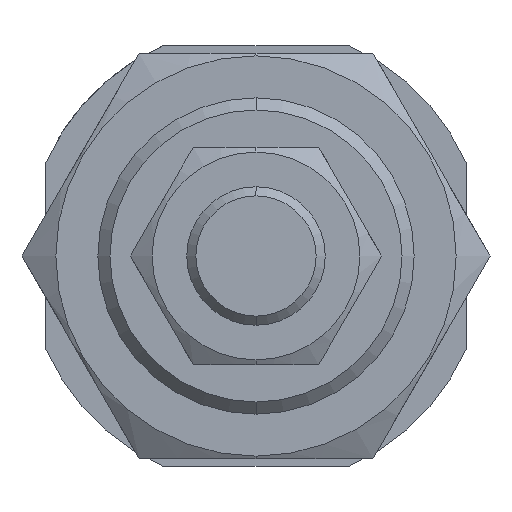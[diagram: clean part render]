
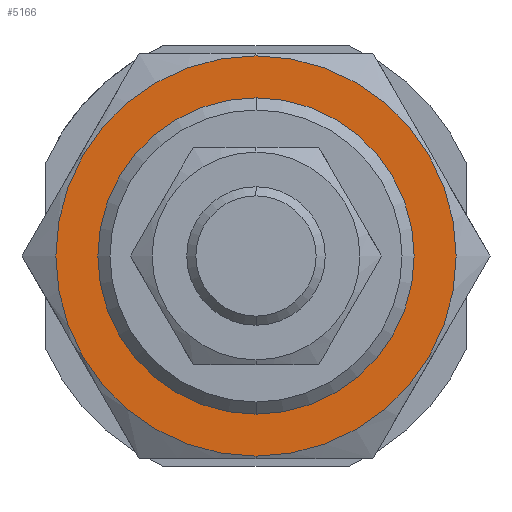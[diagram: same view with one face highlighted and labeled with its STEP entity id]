
A CAD part, left-side view. The second image highlights one B-rep face of the part: STEP entity #5166.
In plain terms, the highlighted planar face has unit normal (-1, 0, 0).
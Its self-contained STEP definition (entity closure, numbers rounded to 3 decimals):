
#26 = CARTESIAN_POINT ( 'NONE',  ( -13., 0., 20.25 ) ) ;
#105 = CARTESIAN_POINT ( 'NONE',  ( -13., 0., 0. ) ) ;
#205 = ORIENTED_EDGE ( 'NONE', *, *, #1601, .F. ) ;
#451 = DIRECTION ( 'NONE',  ( 1., 0., 0. ) ) ;
#577 = DIRECTION ( 'NONE',  ( 1., 0., 0. ) ) ;
#635 = ORIENTED_EDGE ( 'NONE', *, *, #3883, .T. ) ;
#714 = VERTEX_POINT ( 'NONE', #2611 ) ;
#980 = DIRECTION ( 'NONE',  ( 1., 0., 0. ) ) ;
#1089 = DIRECTION ( 'NONE',  ( 0., 0., -1. ) ) ;
#1408 = PLANE ( 'NONE',  #2892 ) ;
#1516 = CIRCLE ( 'NONE', #4576, 16. ) ;
#1549 = DIRECTION ( 'NONE',  ( 0., 0., -1. ) ) ;
#1601 = EDGE_CURVE ( 'NONE', #714, #5371, #4857, .T. ) ;
#1634 = AXIS2_PLACEMENT_3D ( 'NONE', #2127, #2572, #2977 ) ;
#1981 = FACE_BOUND ( 'NONE', #3198, .T. ) ;
#2028 = EDGE_CURVE ( 'NONE', #4575, #4931, #4028, .T. ) ;
#2088 = AXIS2_PLACEMENT_3D ( 'NONE', #105, #3741, #1549 ) ;
#2127 = CARTESIAN_POINT ( 'NONE',  ( -13., 0., 0. ) ) ;
#2247 = CARTESIAN_POINT ( 'NONE',  ( -13., 0., -16. ) ) ;
#2275 = CARTESIAN_POINT ( 'NONE',  ( -13., 0., 16. ) ) ;
#2484 = EDGE_CURVE ( 'NONE', #5371, #714, #3852, .T. ) ;
#2572 = DIRECTION ( 'NONE',  ( 1., 0., 0. ) ) ;
#2611 = CARTESIAN_POINT ( 'NONE',  ( -13., 0., -20.25 ) ) ;
#2735 = DIRECTION ( 'NONE',  ( 0., 0., -1. ) ) ;
#2747 = DIRECTION ( 'NONE',  ( 0., 1., 0. ) ) ;
#2892 = AXIS2_PLACEMENT_3D ( 'NONE', #4944, #980, #2747 ) ;
#2977 = DIRECTION ( 'NONE',  ( 0., 0., -1. ) ) ;
#3198 = EDGE_LOOP ( 'NONE', ( #635, #4389 ) ) ;
#3741 = DIRECTION ( 'NONE',  ( 1., 0., 0. ) ) ;
#3852 = CIRCLE ( 'NONE', #2088, 20.25 ) ;
#3883 = EDGE_CURVE ( 'NONE', #4931, #4575, #1516, .T. ) ;
#3926 = AXIS2_PLACEMENT_3D ( 'NONE', #4540, #577, #1089 ) ;
#4028 = CIRCLE ( 'NONE', #1634, 16. ) ;
#4125 = FACE_OUTER_BOUND ( 'NONE', #4255, .T. ) ;
#4255 = EDGE_LOOP ( 'NONE', ( #205, #5477 ) ) ;
#4389 = ORIENTED_EDGE ( 'NONE', *, *, #2028, .T. ) ;
#4540 = CARTESIAN_POINT ( 'NONE',  ( -13., 0., 0. ) ) ;
#4575 = VERTEX_POINT ( 'NONE', #2247 ) ;
#4576 = AXIS2_PLACEMENT_3D ( 'NONE', #4877, #451, #2735 ) ;
#4857 = CIRCLE ( 'NONE', #3926, 20.25 ) ;
#4877 = CARTESIAN_POINT ( 'NONE',  ( -13., 0., 0. ) ) ;
#4931 = VERTEX_POINT ( 'NONE', #2275 ) ;
#4944 = CARTESIAN_POINT ( 'NONE',  ( -13., 0., 0. ) ) ;
#5166 = ADVANCED_FACE ( 'NONE', ( #4125, #1981 ), #1408, .F. ) ;
#5371 = VERTEX_POINT ( 'NONE', #26 ) ;
#5477 = ORIENTED_EDGE ( 'NONE', *, *, #2484, .F. ) ;
